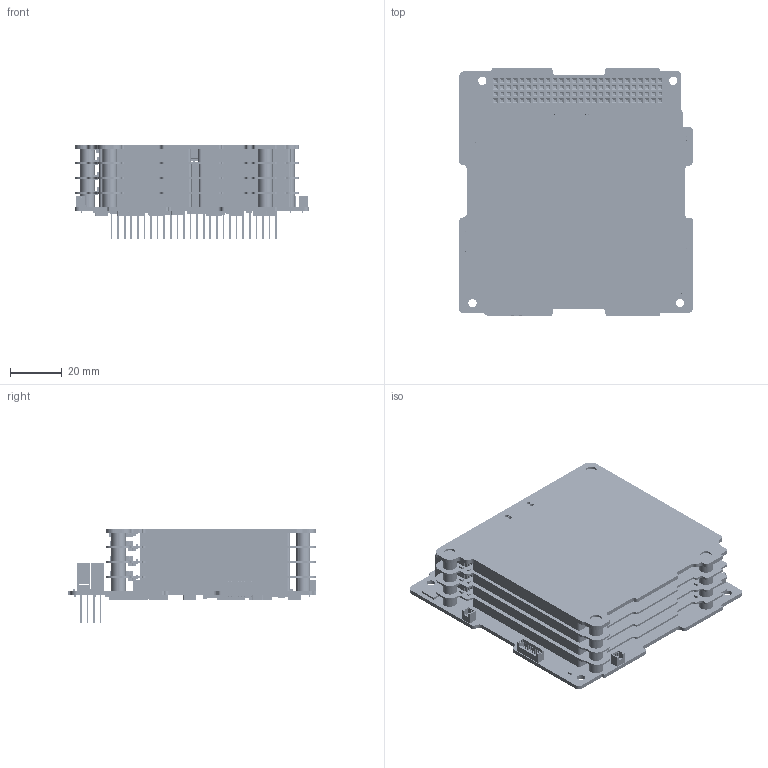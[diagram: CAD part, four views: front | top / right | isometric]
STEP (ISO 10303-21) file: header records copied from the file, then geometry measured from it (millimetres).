
FILE_DESCRIPTION (( 'STEP AP214' ), '1' );
FILE_NAME ('3D-01-02686_RevA_defeature.STEP', '2022-10-19T10:06:56', ( '' ), ( '' ), 'SwSTEP 2.0', 'SolidWorks 2021', '' );
FILE_SCHEMA (( 'AUTOMOTIVE_DESIGN' ));
Length unit declared in the file: millimetre
Products named in the file (1): 3D-01-02686_RevA_defeature
Bounding box: 90.17 x 95.89 x 36.44 mm (x, y, z)
Volume: 132073.6 mm3; surface area: 133011 mm2
Topology: 293 solids, 293 shells, 15670 faces, 43440 edges, 28674 vertices
Faces by surface type: plane 11261, cylinder 4258, bspline 135, cone 16
Entity records: 514055 total; most frequent: CARTESIAN_POINT 102633, ORIENTED_EDGE 86896, DIRECTION 82560, EDGE_CURVE 43448, LINE 34454, VECTOR 34454, VERTEX_POINT 28682, AXIS2_PLACEMENT_3D 24053
